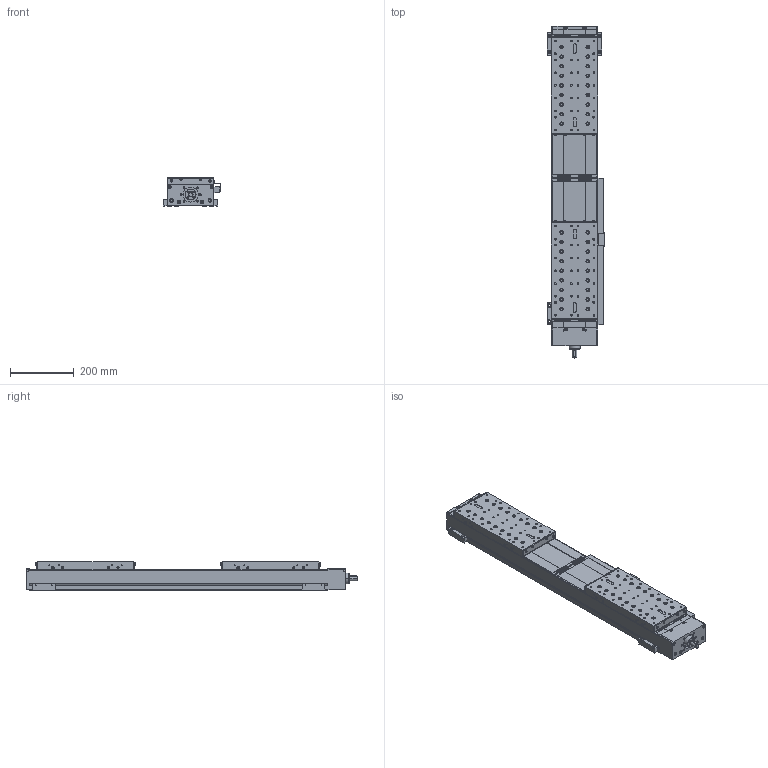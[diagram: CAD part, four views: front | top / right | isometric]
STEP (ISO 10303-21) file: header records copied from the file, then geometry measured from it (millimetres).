
FILE_DESCRIPTION(('Creo Elements/Direct Modeling STEP Export'),'2;1');
FILE_NAME('D145-C-SSS-RL-300-EN.stp','2025-01-13T 9:28:16',(''),(''),'Creo Elements/Direct Modeling STEP processor for AP214 (Solid Model)','Creo Elements/Direct Modeling 20.1D 10-Oct-2020 (C) Parametric Technology GmbH','');
FILE_SCHEMA(('AUTOMOTIVE_DESIGN { 1 0 10303 214 1 1 1 1 }'));
Length unit declared in the file: millimetre
Products named in the file (25): D145-C-SSS-Schlitten-300; Abstreiferbuerste-Blau_23146; Schraube_M_4x10_ISO_7380_va_11444; Abstreiferbuerste-Blau-D145-C_23146_kpl; Abstreifer_kpl; D145-C-SSS-Schlitten-300_kpl.02; D145-C-SSS-Grundkoerper-Teil1; BL2_10553; Befestigungsleistenpaar; Befestigungsleistenpaar.2; Befestigungsleisten; Endschalterprofil; Endschalter_induktiv.1; Endschalter_induktiv; Endschalter_induktiv.2; Induktive_Endschalter_mit_EN-Profil; Schaltfahne_10407; Linsenschraube_M4x8_EN_ISO_7380_1_10.9_vz_10243.01; Schaltfahne_10407_kpl; Induktive-Endschalter; NS4_10559.02; Nutensteinpaar; Nutensteine; D145-C-SSS_RH-LH_SP300_EN
Assembly tree (33 placements, depth 5):
  D145-C-SSS_RH-LH_SP300_EN
    Nutensteine
      Nutensteinpaar
        NS4_10559.02  x2
    D145-C-SSS-Schlitten-300_kpl.02  x2
      Abstreifer_kpl
        Abstreiferbuerste-Blau-D145-C_23146_kpl  x2
          Schraube_M_4x10_ISO_7380_va_11444
          Abstreiferbuerste-Blau_23146
      D145-C-SSS-Schlitten-300
    Induktive-Endschalter
      Schaltfahne_10407_kpl
        Linsenschraube_M4x8_EN_ISO_7380_1_10.9_vz_10243.01  x2
        Schaltfahne_10407
      Induktive_Endschalter_mit_EN-Profil
        Endschalter_induktiv.2
        Endschalter_induktiv
        Endschalter_induktiv.1
        Endschalterprofil
    Befestigungsleisten
      Befestigungsleistenpaar.2
        BL2_10553  x2
      Befestigungsleistenpaar
        BL2_10553  x2
    D145-C-SSS-Grundkoerper-Teil1
Bounding box: 179.5 x 1039 x 88 mm (x, y, z)
Volume: 11196715.2 mm3; surface area: 886346.3 mm2
Topology: 36 solids, 36 shells, 6659 faces, 17960 edges, 11763 vertices
Faces by surface type: plane 5444, cylinder 839, cone 272, sphere 60, torus 44
Entity records: 209810 total; most frequent: CARTESIAN_POINT 32562, ORIENTED_EDGE 31028, DIRECTION 26323, EDGE_CURVE 15506, VECTOR 14175, LINE 14175, VERTEX_POINT 10277, EDGE_LOOP 6077
